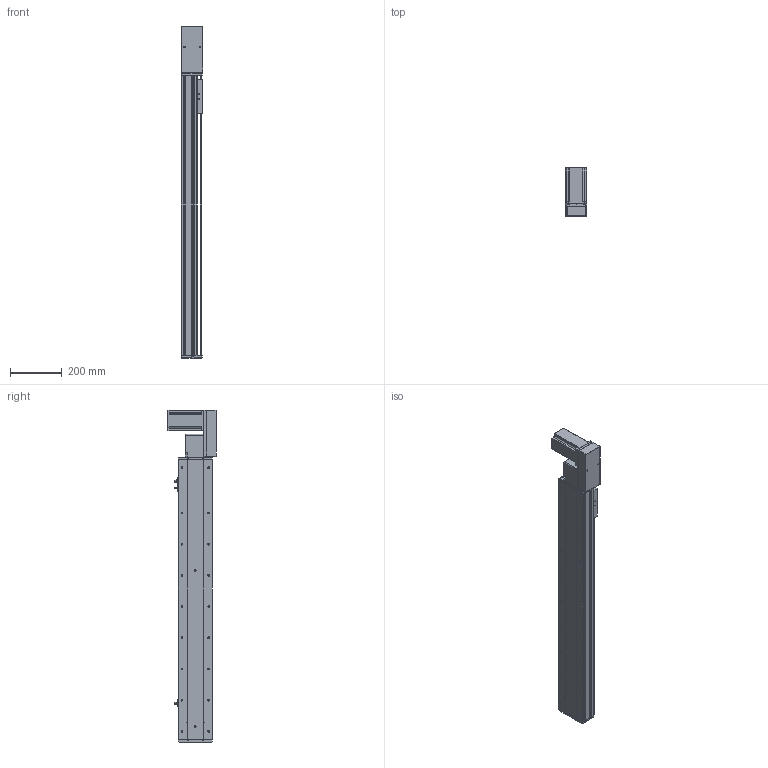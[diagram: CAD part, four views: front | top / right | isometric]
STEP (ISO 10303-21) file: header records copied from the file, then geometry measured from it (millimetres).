
FILE_DESCRIPTION (( 'STEP AP214' ), '1' );
FILE_NAME ('KSD130B-S850-MLB-CM.STEP', '2019-11-14T02:10:10', ( '微软用户' ), ( '微软中国' ), 'SwSTEP 2.0', 'SolidWorks 2014', '' );
FILE_SCHEMA (( 'AUTOMOTIVE_DESIGN' ));
Length unit declared in the file: millimetre
Products named in the file (12): 台达ECMA－C20807AS伺服电机; 130宽模组保护罩上下左右折-同步带; 130宽模组马达安装板连板左右折同步带; 覜茼え100遵圉猾敕; U倰嫖萇EEㄜSX672; 130宽盖板半封闭同步带-850行程; 130宽马达安装板同步带左-改; 130宽马达安装板同步带半封闭; 130宽同步带安装座半封闭; 130宽端盖同步带半封闭; 130宽底板半封闭同步带-850行程; KSD130B-S850-MLB-CM
Assembly tree (13 placements, depth 2):
  KSD130B-S850-MLB-CM
    130宽底板半封闭同步带-850行程
    130宽端盖同步带半封闭
    130宽同步带安装座半封闭
    130宽马达安装板同步带半封闭
    130宽马达安装板同步带左-改
    130宽盖板半封闭同步带-850行程
    U倰嫖萇EEㄜSX672  x3
    覜茼え100遵圉猾敕
    130宽模组马达安装板连板左右折同步带
    130宽模组保护罩上下左右折-同步带
    台达ECMA－C20807AS伺服电机
Bounding box: 82.5 x 184.8 x 1277 mm (x, y, z)
Volume: 4584433 mm3; surface area: 1237603.6 mm2
Topology: 14 solids, 14 shells, 1495 faces, 4241 edges, 2711 vertices
Faces by surface type: cylinder 710, plane 618, cone 167
Entity records: 48651 total; most frequent: CARTESIAN_POINT 8896, DIRECTION 7427, ORIENTED_EDGE 7134, EDGE_CURVE 3567, AXIS2_PLACEMENT_3D 2702, VERTEX_POINT 2335, LINE 2023, VECTOR 2023
